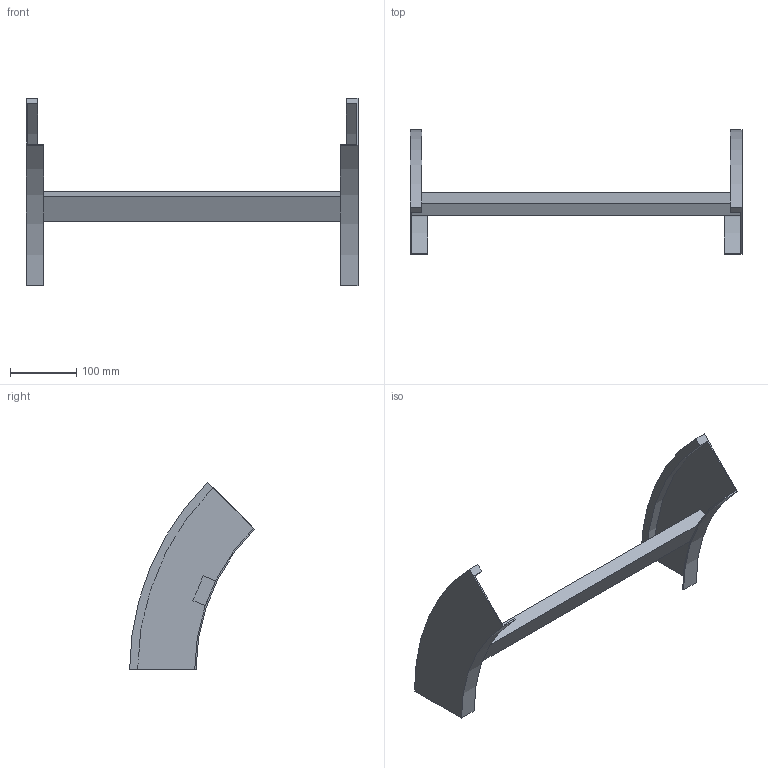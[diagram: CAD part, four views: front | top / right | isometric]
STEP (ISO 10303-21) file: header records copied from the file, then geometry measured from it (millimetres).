
FILE_DESCRIPTION (( 'STEP AP214' ), '1' );
FILE_NAME ('B2_34B3D500.step', '2025-02-21T14:52:12', ( '' ), ( '' ), 'SwSTEP 2.0', 'SolidWorks 2023', '' );
FILE_SCHEMA (( 'AUTOMOTIVE_DESIGN' ));
Length unit declared in the file: millimetre
Products named in the file (3): TRAVERSINO_500; B2_LONGH.DISCESA_45°_H100_R300; B2_34B3D500
Assembly tree (3 placements, depth 2):
  B2_34B3D500
    B2_LONGH.DISCESA_45°_H100_R300  x2
    TRAVERSINO_500
Bounding box: 500 x 187.87 x 282.84 mm (x, y, z)
Volume: 654183.8 mm3; surface area: 219003.9 mm2
Topology: 3 solids, 3 shells, 26 faces, 60 edges, 40 vertices
Faces by surface type: plane 18, cylinder 8
Entity records: 544 total; most frequent: DIRECTION 88, CARTESIAN_POINT 82, ORIENTED_EDGE 72, EDGE_CURVE 36, AXIS2_PLACEMENT_3D 30, VECTOR 28, LINE 28, VERTEX_POINT 24
